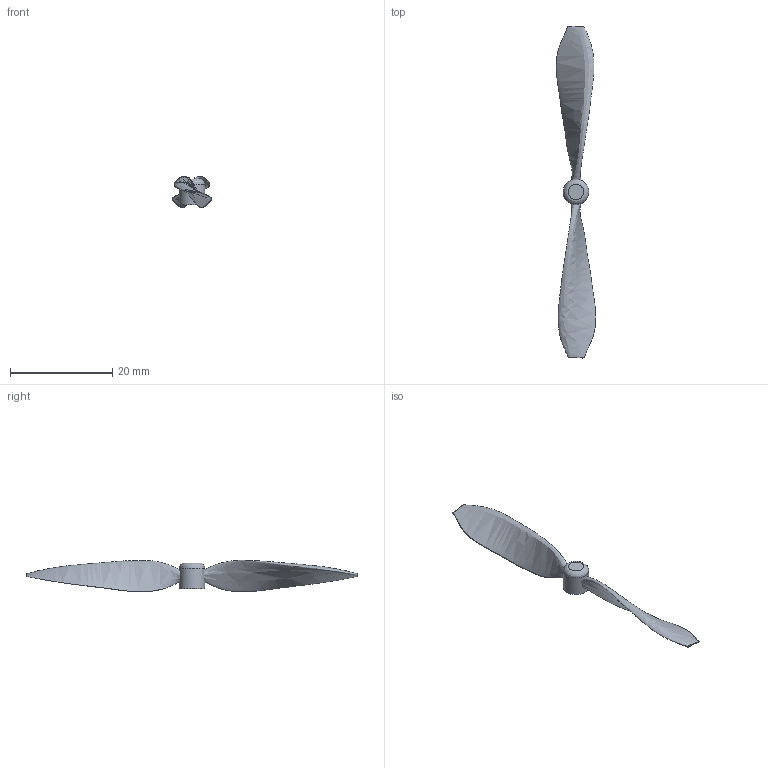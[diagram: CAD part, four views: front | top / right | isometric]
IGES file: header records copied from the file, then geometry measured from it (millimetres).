
Global section: file name: Propeller v7; native system: unknown; preprocessor: unknown; author: unknown; organization: unknown; date: 20190830.112032; units: millimetre
Bounding box: 7.72 x 65 x 6.11 mm (x, y, z)
Volume: 353.9 mm3; surface area: 990.4 mm2
Topology: 3 solids, 3 shells, 20 faces, 42 edges, 24 vertices
Faces by surface type: bspline 20
